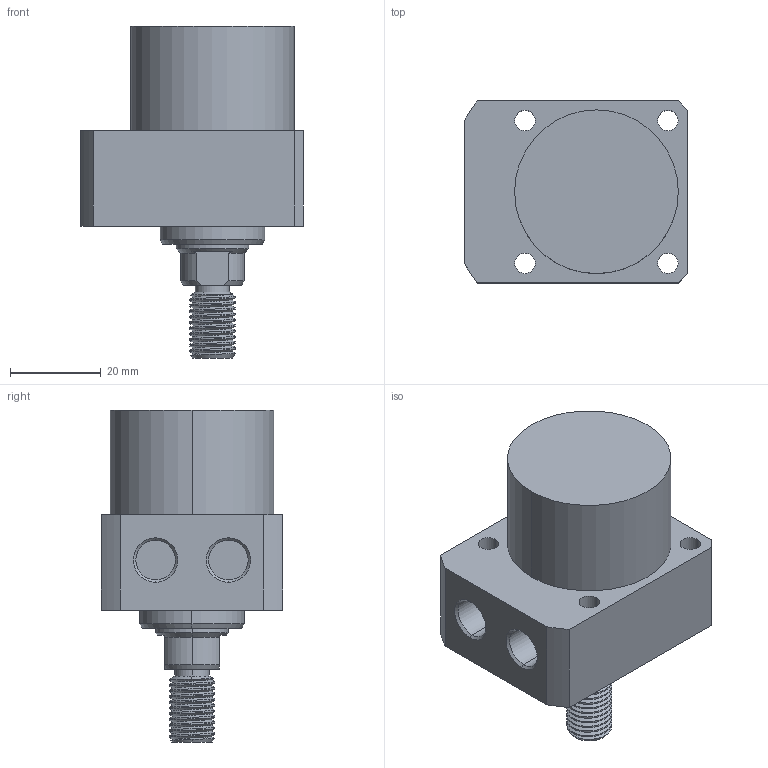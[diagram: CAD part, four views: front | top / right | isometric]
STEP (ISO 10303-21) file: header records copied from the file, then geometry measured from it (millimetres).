
FILE_DESCRIPTION (( 'STEP AP203' ), '1' );
FILE_NAME ('CLLR-036CT-(1-14).STEP', '2020-01-08T08:33:45', ( 'Windows' ), ( 'Microsoft' ), 'SwSTEP 2.0', 'SolidWorks 2015', '' );
FILE_SCHEMA (( 'CONFIG_CONTROL_DESIGN' ));
Length unit declared in the file: millimetre
Products named in the file (1): CLLR-036CT-(1-14)
Bounding box: 49 x 40 x 73 mm (x, y, z)
Volume: 65415.3 mm3; surface area: 13276.9 mm2
Topology: 1 solids, 1 shells, 90 faces, 226 edges, 146 vertices
Faces by surface type: cylinder 51, plane 21, cone 16, bspline 2
Entity records: 4029 total; most frequent: CARTESIAN_POINT 1876, ORIENTED_EDGE 452, DIRECTION 421, EDGE_CURVE 226, AXIS2_PLACEMENT_3D 165, VERTEX_POINT 146, EDGE_LOOP 106, VECTOR 91
